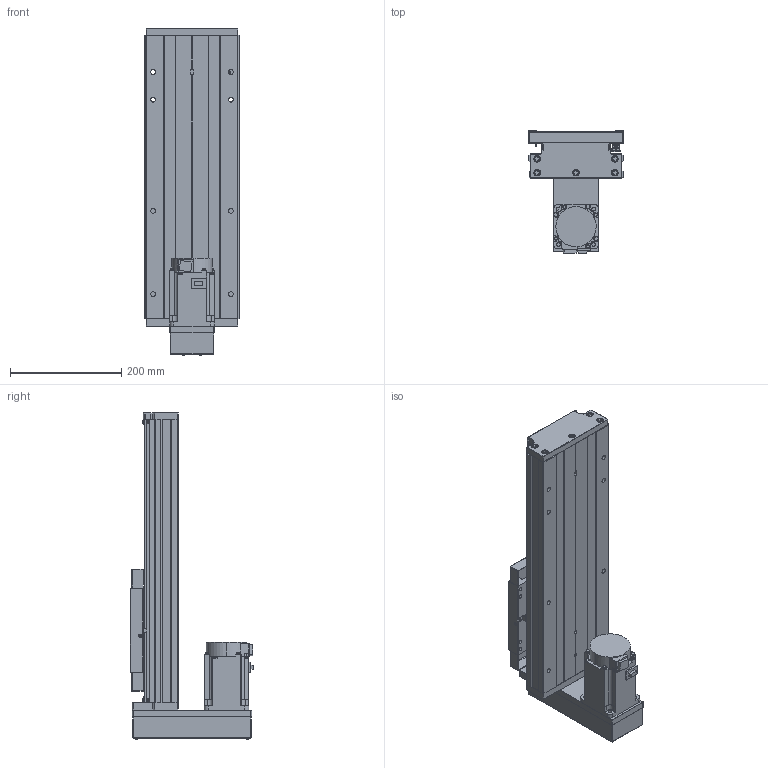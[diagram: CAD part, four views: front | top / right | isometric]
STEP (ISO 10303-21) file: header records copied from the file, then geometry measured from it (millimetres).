
FILE_DESCRIPTION (( 'STEP AP203' ), '1' );
FILE_NAME ('GTH17-250-BM-M75-C4.step', '2023-06-30T12:39:00', ( '微软用户' ), ( '微软中国' ), 'SwSTEP 2.0', 'SolidWorks 2020', '' );
FILE_SCHEMA (( 'CONFIG_CONTROL_DESIGN' ));
Length unit declared in the file: millimetre
Products named in the file (19): CTHA60-017; GBT 70.2-M3¡Á5_M3¡Á6; EE_SX911P_R; す晦芛蹟隊 M3℅5; GTH17-001_250; CTHA60-016; HG-KN73J-S100; GTH17-002_GTH17-002; GBT 70.1-M3℅5; GBT 70.2-M4¡Á45_M4¡Á35; GTH17-004; GBT77-2000 M3×3; GTH17-015-2_CTHA86-015-2; GTH17-005; GBT 70.1-M6¡Á20_M6¡Á20; GTH17-033; GB1155-6X6; GTH17-031; GTH17-250-BM-M75-C4
Assembly tree (58 placements, depth 2):
  GTH17-250-BM-M75-C4
    GTH17-001_250
    GTH17-002_GTH17-002
    GTH17-004
    GTH17-005
    GB1155-6X6  x2
    CTHA60-017  x3
    EE_SX911P_R  x3
    CTHA60-016  x2
    GBT 70.1-M3℅5  x6
    GBT77-2000 M3×3  x6
    GBT 70.1-M6¡Á20_M6¡Á20  x10
    GTH17-031
    GBT 70.2-M3¡Á5_M3¡Á6  x8
    す晦芛蹟隊 M3℅5  x6
    HG-KN73J-S100
    GBT 70.2-M4¡Á45_M4¡Á35  x4
    GTH17-015-2_CTHA86-015-2
    GTH17-033
Bounding box: 171 x 222.3 x 588.2 mm (x, y, z)
Volume: 5380627 mm3; surface area: 854154.2 mm2
Topology: 61 solids, 61 shells, 2429 faces, 5797 edges, 3587 vertices
Faces by surface type: plane 1306, cylinder 650, cone 297, torus 124, sphere 32, bspline 20
Entity records: 44122 total; most frequent: CARTESIAN_POINT 10266, DIRECTION 6361, ORIENTED_EDGE 6306, EDGE_CURVE 3153, AXIS2_PLACEMENT_3D 2160, VECTOR 2041, LINE 2041, VERTEX_POINT 1999
